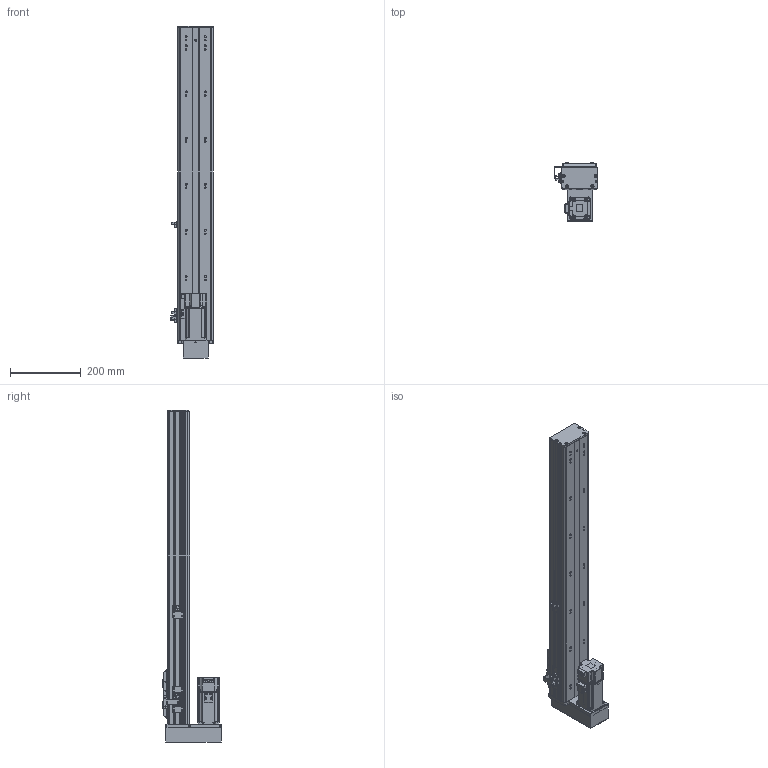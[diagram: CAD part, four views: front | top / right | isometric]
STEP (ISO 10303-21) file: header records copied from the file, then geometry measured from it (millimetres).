
FILE_DESCRIPTION (( 'STEP AP203' ), '1' );
FILE_NAME ('BOSW100-700-1610-1P-DM-M400W-O-S3（方程式2016）.step', '2020-10-10T06:46:10', ( '' ), ( '' ), 'SwSTEP 2.0', 'SolidWorks 2016', '' );
FILE_SCHEMA (( 'CONFIG_CONTROL_DESIGN' ));
Length unit declared in the file: millimetre
Products named in the file (14): 新结构AIMSW-100-1P-宽&高轨共用-滑动座上组件; S400W(SMA-L040); BOSW-100-綴裔啣; BOSW-100-1P-DM-宽轨-侧板-700客户图纸; BOSW&TW-100-詩湍揤沭(陔賦凳); BOS-100-DM鎮湛假蚾啣; BOS100-DM鎮湛欶; BOSW&TW-100-俋离覜茼え; 放大器内置U型微型光电传感器PM-L65; BOSW-100-1P-DM-700諦誧芞; 俋境嫖覜嘐隅啣; BOSW-100-1P-DM-宽轨-钢带-700客户图纸; BOSW&TW-100-1P-賑雄釱欶; BOSW100-700-1610-1P-DM-M400W-O-S3（方程式2016）
Assembly tree (19 placements, depth 2):
  BOSW100-700-1610-1P-DM-M400W-O-S3（方程式2016）
    BOSW-100-1P-DM-700諦誧芞
    BOSW-100-綴裔啣
    新结构AIMSW-100-1P-宽&高轨共用-滑动座上组件
    S400W(SMA-L040)
    BOSW&TW-100-詩湍揤沭(陔賦凳)  x2
    BOSW&TW-100-1P-賑雄釱欶
    BOSW&TW-100-俋离覜茼え
    俋境嫖覜嘐隅啣  x3
    放大器内置U型微型光电传感器PM-L65  x3
    BOSW-100-1P-DM-宽轨-侧板-700客户图纸  x2
    BOSW-100-1P-DM-宽轨-钢带-700客户图纸
    BOS100-DM鎮湛欶
    BOS-100-DM鎮湛假蚾啣
Bounding box: 120.9 x 164 x 936 mm (x, y, z)
Volume: 2090895 mm3; surface area: 978503.2 mm2
Topology: 19 solids, 19 shells, 2568 faces, 6782 edges, 4337 vertices
Faces by surface type: plane 1269, cylinder 823, bspline 271, cone 157, torus 36, sphere 12
Entity records: 70787 total; most frequent: CARTESIAN_POINT 21100, ORIENTED_EDGE 10120, DIRECTION 9808, EDGE_CURVE 5060, AXIS2_PLACEMENT_3D 3476, VERTEX_POINT 3239, VECTOR 2856, LINE 2856
